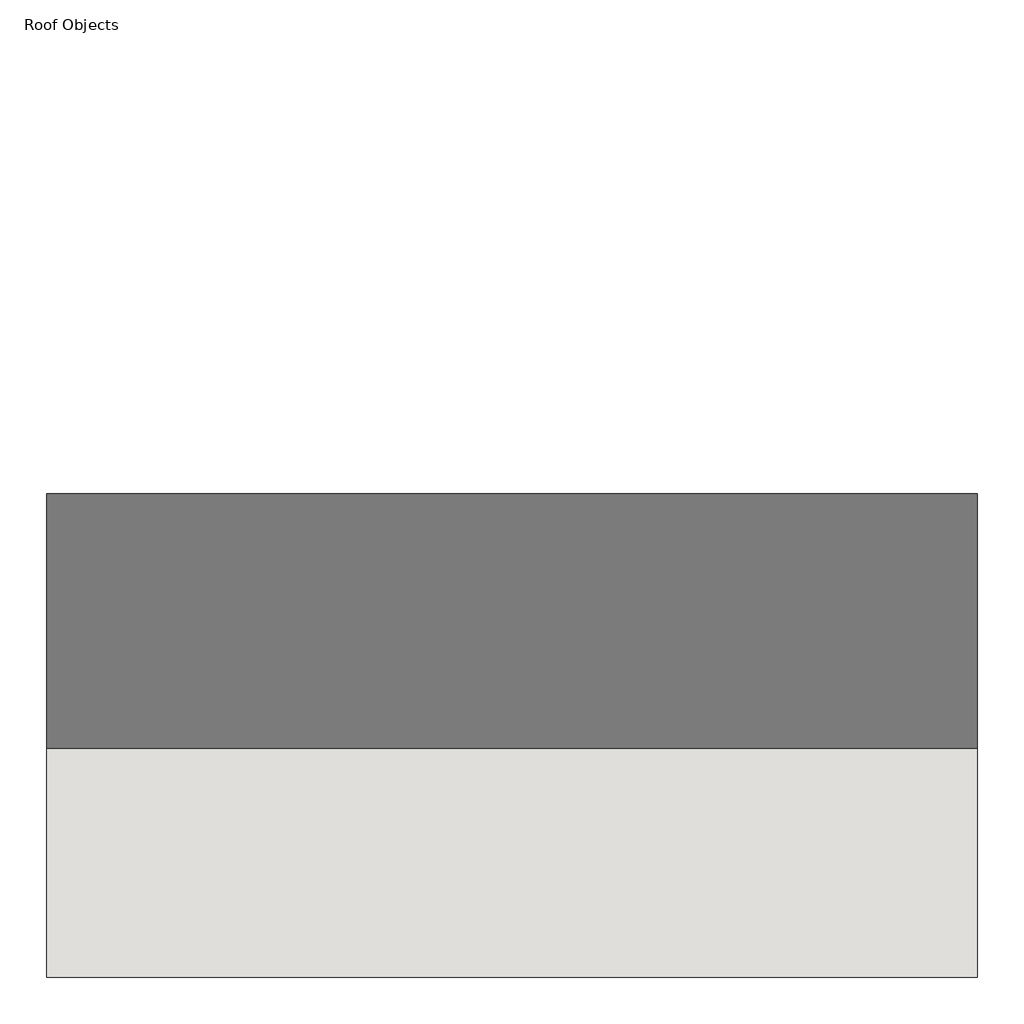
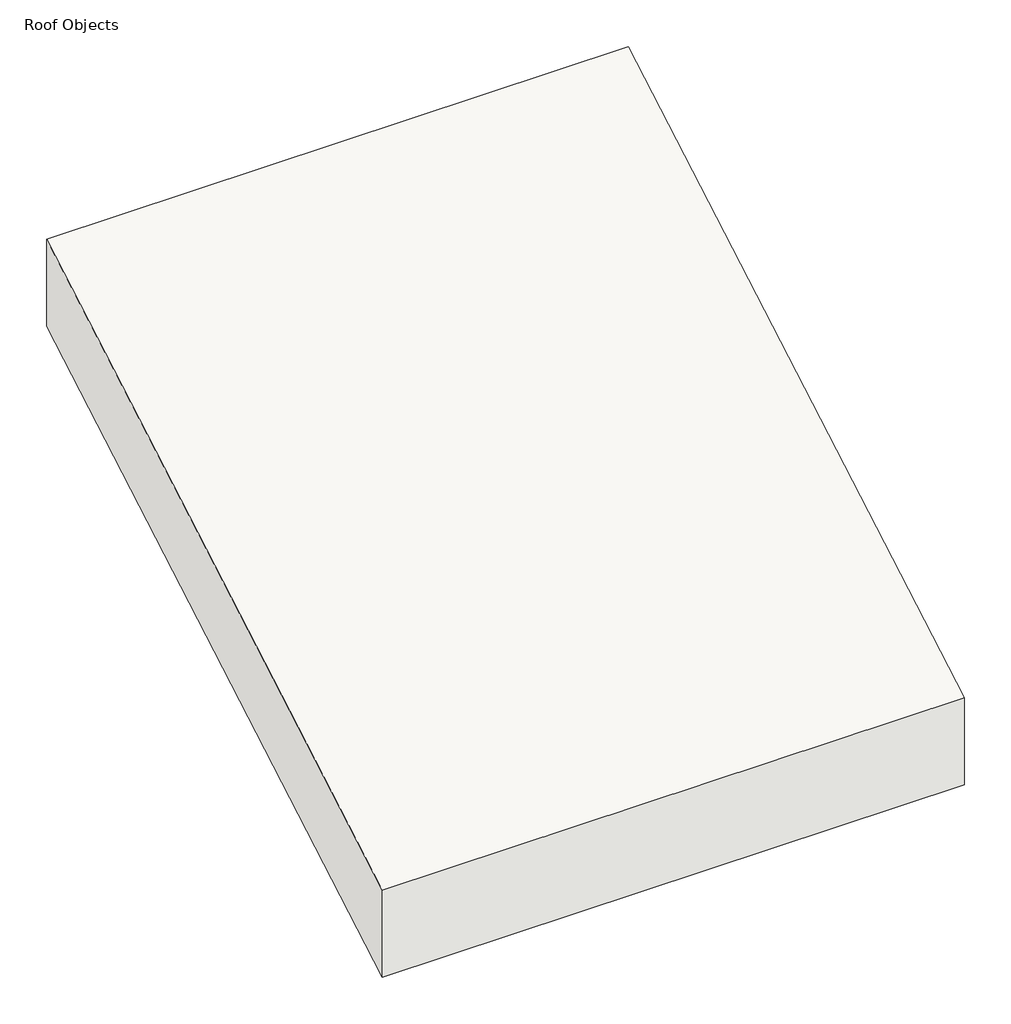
# One storey: 1 roof.
"""IFC4 building model written with IfcOpenShell, lengths in millimetres."""

import ifcopenshell
import ifcopenshell.guid

model = None  # the IFC model being written
_history = None  # IfcOwnerHistory: only IFC2X3 demands one
_inside = {}  # id of a spatial element -> (the spatial element, [elements in it])
_under = {}  # id of a project, library or spatial element -> (it, [spatial elements below it])
_declared = {}  # id of a project -> (the project, [libraries it declares])
_typed = {}  # id of a type object -> (the type object, [elements of that type])
_made_of = {}  # id of a material, layer set ... -> (it, [elements and type objects made of it])


def new_model(schema):
    """Start an empty IFC model of exactly this schema.

    Asked for "IFC4X3", IfcOpenShell would pick the latest addendum, in which some entities
    have other attributes; the version numbers below select the first issue.
    IFC2X3 requires an IfcOwnerHistory on every rooted entity: one is made here for all.
    """
    global model, _history
    if schema == "IFC4X3":
        model = ifcopenshell.file(schema_version=(4, 3, 0, 0))
    else:
        model = ifcopenshell.file(schema=schema)
    _inside.clear()
    _under.clear()
    _declared.clear()
    _typed.clear()
    _made_of.clear()
    _history = None
    if model.schema == "IFC2X3":
        org = make("IfcOrganization", Name="unknown")
        user = make(
            "IfcPersonAndOrganization",
            ThePerson=make("IfcPerson", FamilyName="unknown"),
            TheOrganization=org,
        )
        app = make(
            "IfcApplication",
            ApplicationDeveloper=org,
            Version="unknown",
            ApplicationFullName="unknown",
            ApplicationIdentifier="unknown",
        )
        _history = make(
            "IfcOwnerHistory",
            OwningUser=user,
            OwningApplication=app,
            ChangeAction="ADDED",
            CreationDate=0,
        )
    return model


def make(cls, **values):
    """One entity of the class cls with the attributes given. An attribute that is None is left unset."""
    return model.create_entity(
        cls, **{name: value for name, value in values.items() if value is not None}
    )


def rooted(cls, **values):
    """An entity with a GlobalId (a new one), such as an element, a storey or a relation."""
    return make(cls, GlobalId=ifcopenshell.guid.new(), OwnerHistory=_history, **values)


def si_unit(unit_type, name, prefix=None):
    """IfcSIUnit, for example si_unit("LENGTHUNIT", "METRE", prefix="MILLI")."""
    return make("IfcSIUnit", UnitType=unit_type, Prefix=prefix, Name=name)


def assignment(units):
    """IfcUnitAssignment: the units of a project."""
    return None if units is None else make("IfcUnitAssignment", Units=units)


def point(xyz):
    """IfcCartesianPoint."""
    return None if xyz is None else make("IfcCartesianPoint", Coordinates=xyz)


def direction(xyz):
    """IfcDirection."""
    return None if xyz is None else make("IfcDirection", DirectionRatios=xyz)


def frame(location, z_axis=None, x_axis=None):
    """IfcAxis2Placement3D, a coordinate frame: its origin and axes. An axis left out is left unset."""
    return make(
        "IfcAxis2Placement3D",
        Location=point(location),
        Axis=direction(z_axis),
        RefDirection=direction(x_axis),
    )


def origin():
    """The frame at (0, 0, 0) with its axes left unset."""
    return frame((0.0, 0.0, 0.0))


def place(relative_to, where):
    """IfcLocalPlacement: puts the frame where relative to a parent placement (None: the world)."""
    return make(
        "IfcLocalPlacement", PlacementRelTo=relative_to, RelativePlacement=where
    )


def context(
    kind, dimensions, precision=None, world=None, true_north=None, identifier=None
):
    """IfcGeometricRepresentationContext, for example the 3D "Model" context."""
    return make(
        "IfcGeometricRepresentationContext",
        ContextIdentifier=identifier,
        ContextType=kind,
        CoordinateSpaceDimension=dimensions,
        Precision=precision,
        WorldCoordinateSystem=world,
        TrueNorth=true_north,
    )


def project(units=None, contexts=None):
    """IfcProject with its units and contexts."""
    return rooted(
        "IfcProject",
        Name="project",
        RepresentationContexts=contexts,
        UnitsInContext=assignment(units),
    )


def spatial(cls, under=None, at=None, **own):
    """A site, building, storey or space (cls), placed at a placement, below another one or the project."""
    s = rooted(cls, ObjectPlacement=at, **own)
    if under is not None:
        _under.setdefault(under.id(), (under, []))[1].append(s)
    return s


def polyline(points):
    """IfcPolyline through the points."""
    return make("IfcPolyline", Points=[point(p) for p in points])


def outline(outer, holes=None, kind="AREA"):
    """IfcArbitraryClosedProfileDef: a profile drawn as a closed curve; with holes, ...WithVoids."""
    if holes is None:
        return make("IfcArbitraryClosedProfileDef", ProfileType=kind, OuterCurve=outer)
    return make(
        "IfcArbitraryProfileDefWithVoids",
        ProfileType=kind,
        OuterCurve=outer,
        InnerCurves=holes,
    )


def extrude(swept, where, along, depth):
    """IfcExtrudedAreaSolid: the profile swept, set in the frame where, extruded along a direction by depth."""
    return make(
        "IfcExtrudedAreaSolid",
        SweptArea=swept,
        Position=where,
        ExtrudedDirection=direction(along),
        Depth=depth,
    )


def shape(context_of_items, identifier, shape_type, items):
    """IfcShapeRepresentation: the items that make up one representation, for example the "Body"."""
    return make(
        "IfcShapeRepresentation",
        ContextOfItems=context_of_items,
        RepresentationIdentifier=identifier,
        RepresentationType=shape_type,
        Items=items,
    )


def made_of(thing, what):
    """Note that an element or type object is made of a material, layer set ...; save() writes the relation."""
    if what is not None:
        _made_of.setdefault(what.id(), (what, []))[1].append(thing)
    return thing


def element(
    cls,
    number,
    at=None,
    inside=None,
    cuts=None,
    type_object=None,
    material=None,
    context=None,
    identifier="Body",
    shape_type=None,
    held_by="IfcProductDefinitionShape",
    body=None,
    shapes=None,
    **own,
):
    """One element of the class cls, such as IfcWall. Its Tag is "e" and its number.

    at: its placement. inside: the storey or other place that contains it. cuts: it is an
    opening in that element (IfcRelVoidsElement). A single representation is given by context,
    identifier, shape_type and body (its items); several are given by shapes. held_by: the class
    of the entity that holds the representations. save() writes the other relations.
    """
    e = rooted(cls, Tag="e%d" % number, ObjectPlacement=at, **own)
    if body is not None:
        shapes = [shape(context, identifier, shape_type, body)]
    if shapes is not None:
        e.Representation = make(held_by, Representations=shapes)
    if inside is not None:
        _inside.setdefault(inside.id(), (inside, []))[1].append(e)
    if cuts is not None:
        rooted(
            "IfcRelVoidsElement", RelatingBuildingElement=cuts, RelatedOpeningElement=e
        )
    if type_object is not None:
        _typed.setdefault(type_object.id(), (type_object, []))[1].append(e)
    return made_of(e, material)


def aggregate(whole, parts):
    """IfcRelAggregates: a whole, such as a stair, and the parts it consists of."""
    return rooted("IfcRelAggregates", RelatingObject=whole, RelatedObjects=parts)


def save(model, path):
    """Write the relations noted so far, then the file.

    IfcRelAggregates (storeys below a building ...), IfcRelContainedInSpatialStructure (elements
    in a storey), IfcRelDefinesByType, IfcRelAssociatesMaterial and IfcRelDeclares: one each for
    every whole, place, type object, material and project.
    """
    for whole, parts in _under.values():
        aggregate(whole, parts)
    for where, things in _inside.values():
        rooted(
            "IfcRelContainedInSpatialStructure",
            RelatedElements=things,
            RelatingStructure=where,
        )
    for kind, things in _typed.values():
        rooted("IfcRelDefinesByType", RelatedObjects=things, RelatingType=kind)
    for what, things in _made_of.values():
        rooted("IfcRelAssociatesMaterial", RelatedObjects=things, RelatingMaterial=what)
    for by, libraries in _declared.values():
        rooted("IfcRelDeclares", RelatingContext=by, RelatedDefinitions=libraries)
    model.write(path)


model = new_model("IFC4")

# Units and contexts
model_context = context("Model", 3, world=origin())
ifc_project = project(units=[si_unit("LENGTHUNIT", "METRE", prefix="MILLI")], contexts=[model_context])

# Site, building, storey
site = spatial("IfcSite", under=ifc_project)
building = spatial("IfcBuilding", under=site)
storey = spatial("IfcBuildingStorey", under=building, Name="Roof Objects", Elevation=4000.0)

# Roof
placement = place(None, origin())
element("IfcRoof", 1, ObjectType="DS stålprofil - Klikfals_BasicRoofLoose", at=placement, inside=storey, context=model_context, shape_type="SweptSolid", body=[
    extrude(outline(polyline([(-1971.0000061, 4632.7759153), (2028.9999939, 6942.176992), (2028.9999939, 6309.4010768), (-1971.0000061, 4000.0), (-1971.0000061, 4632.7759153)])), frame((2000.0, 0.0, 0.0), z_axis=(1.0, 0.0, 0.0), x_axis=(0.0, 1.0, 0.0)), (0.0, 0.0, 1.0), 4000.0),
])

save(model, "model.ifc")
